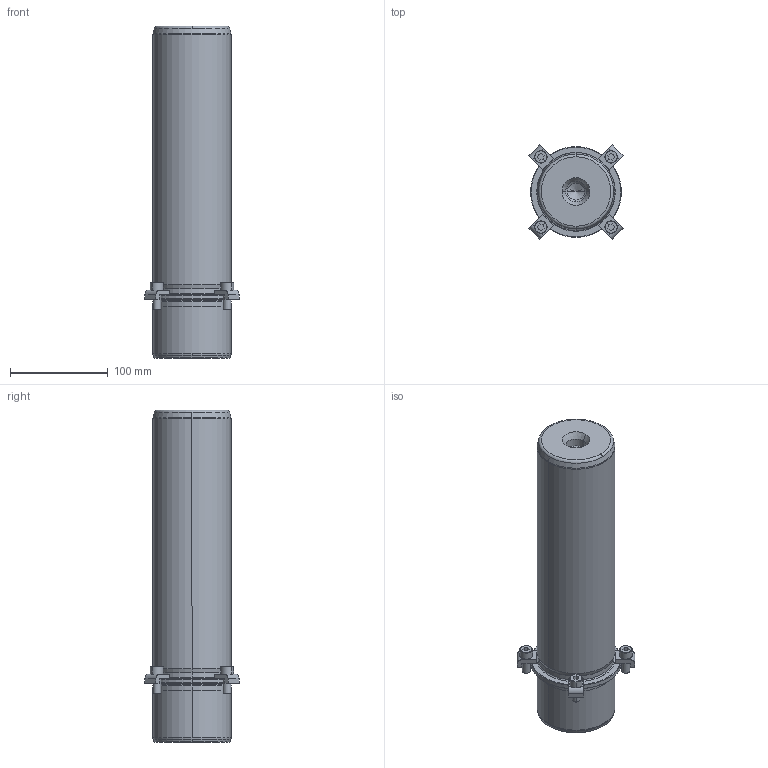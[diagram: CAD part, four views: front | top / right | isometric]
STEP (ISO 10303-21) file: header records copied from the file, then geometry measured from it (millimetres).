
FILE_DESCRIPTION((''),'2;1');
FILE_NAME('P21_080_280.stp','2008-12-19T11:26:12',(''),(''),'Mechanical Desktop 2009','Mechanical Desktop 2009',', , ');
FILE_SCHEMA(('CONFIG_CONTROL_DESIGN'));
Length unit declared in the file: millimetre
Products named in the file (2): Product; blmdl1
Assembly tree (1 placements, depth 2):
  Product
    blmdl1
Bounding box: 96.52 x 96.52 x 340 mm (x, y, z)
Volume: 1694567.8 mm3; surface area: 113299.3 mm2
Topology: 9 solids, 9 shells, 195 faces, 477 edges, 309 vertices
Faces by surface type: plane 77, cylinder 52, cone 34, torus 16, bspline 16
Entity records: 6547 total; most frequent: CARTESIAN_POINT 1683, DIRECTION 1078, ORIENTED_EDGE 946, EDGE_CURVE 473, AXIS2_PLACEMENT_3D 424, VERTEX_POINT 309, CIRCLE 243, VECTOR 230
